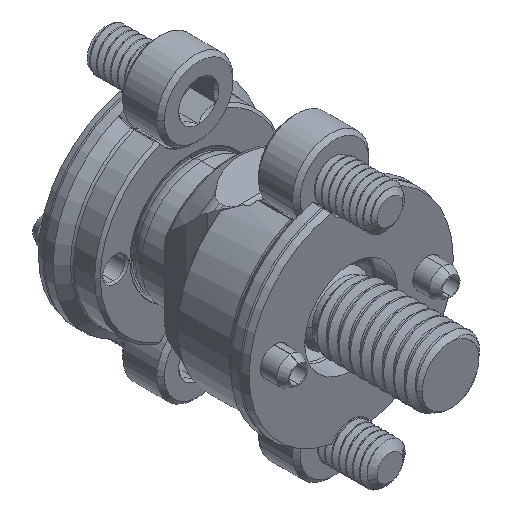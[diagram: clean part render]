
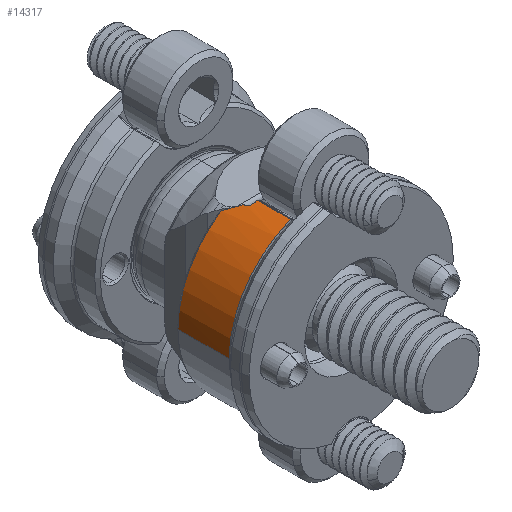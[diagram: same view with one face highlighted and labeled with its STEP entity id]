
A CAD part, isometric view. The second image highlights one B-rep face of the part: STEP entity #14317.
In plain terms, the highlighted cylindrical face has radius 7 mm (diameter 14 mm), a partial arc.
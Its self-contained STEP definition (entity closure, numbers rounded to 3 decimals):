
#232 = DIRECTION ( 'NONE',  ( 0., 1., 0. ) ) ;
#251 = EDGE_CURVE ( 'NONE', #13173, #10769, #2730, .T. ) ;
#262 = CARTESIAN_POINT ( 'NONE',  ( -2.583, 0., 6.506 ) ) ;
#434 = VERTEX_POINT ( 'NONE', #1760 ) ;
#596 = ORIENTED_EDGE ( 'NONE', *, *, #8091, .F. ) ;
#916 = CYLINDRICAL_SURFACE ( 'NONE', #11989, 7. ) ;
#1127 = ORIENTED_EDGE ( 'NONE', *, *, #251, .T. ) ;
#1154 = CARTESIAN_POINT ( 'NONE',  ( 0., 0., 0. ) ) ;
#1642 = VERTEX_POINT ( 'NONE', #15445 ) ;
#1760 = CARTESIAN_POINT ( 'NONE',  ( -3.1, -4.219, 6.276 ) ) ;
#1781 = CARTESIAN_POINT ( 'NONE',  ( -3.377, -3.872, 6.139 ) ) ;
#1853 = CARTESIAN_POINT ( 'NONE',  ( -2.719, -4.6, 6.45 ) ) ;
#2357 = VECTOR ( 'NONE', #14248, 1000. ) ;
#2442 = EDGE_CURVE ( 'NONE', #434, #14510, #9786, .T. ) ;
#2573 = CARTESIAN_POINT ( 'NONE',  ( -2.583, -6.996, 6.506 ) ) ;
#2730 = CIRCLE ( 'NONE', #6981, 7. ) ;
#3080 = ORIENTED_EDGE ( 'NONE', *, *, #3146, .F. ) ;
#3146 = EDGE_CURVE ( 'NONE', #8187, #10038, #10552, .T. ) ;
#3830 = VERTEX_POINT ( 'NONE', #10410 ) ;
#3967 = CARTESIAN_POINT ( 'NONE',  ( -7., -3.3, 0. ) ) ;
#4027 = EDGE_CURVE ( 'NONE', #5760, #1642, #11032, .T. ) ;
#4171 = ORIENTED_EDGE ( 'NONE', *, *, #2442, .F. ) ;
#4189 = CARTESIAN_POINT ( 'NONE',  ( -3.118, -4.158, 6.267 ) ) ;
#4567 = DIRECTION ( 'NONE',  ( 0., 1., 0. ) ) ;
#4812 = VECTOR ( 'NONE', #4567, 1000. ) ;
#4814 = DIRECTION ( 'NONE',  ( 0., 1., 0. ) ) ;
#4851 = EDGE_CURVE ( 'NONE', #10769, #3830, #7357, .T. ) ;
#5024 = DIRECTION ( 'NONE',  ( -1., 0., 0. ) ) ;
#5123 = B_SPLINE_CURVE_WITH_KNOTS ( 'NONE', 3,
 ( #11679, #7074, #9436, #5715 ),
 .UNSPECIFIED., .F., .F.,
 ( 4, 4 ),
 ( 0., 0. ),
 .UNSPECIFIED. ) ;
#5222 = CIRCLE ( 'NONE', #9244, 7. ) ;
#5240 = AXIS2_PLACEMENT_3D ( 'NONE', #13739, #11639, #7897 ) ;
#5472 = CIRCLE ( 'NONE', #5240, 7. ) ;
#5621 = EDGE_LOOP ( 'NONE', ( #3080, #7209, #9235, #15120, #8447, #4171, #596, #1127, #12379, #8100 ) ) ;
#5704 = DIRECTION ( 'NONE',  ( -1., 0., 0. ) ) ;
#5715 = CARTESIAN_POINT ( 'NONE',  ( -2.598, -4.6, 6.5 ) ) ;
#5760 = VERTEX_POINT ( 'NONE', #2573 ) ;
#5818 = VECTOR ( 'NONE', #4814, 1000. ) ;
#5849 = DIRECTION ( 'NONE',  ( 0., -1., 0. ) ) ;
#5863 = FACE_OUTER_BOUND ( 'NONE', #5621, .T. ) ;
#5872 = CARTESIAN_POINT ( 'NONE',  ( -3.1, -4.219, 6.276 ) ) ;
#6008 = EDGE_CURVE ( 'NONE', #8187, #5760, #5222, .T. ) ;
#6216 = CARTESIAN_POINT ( 'NONE',  ( 0., -4.6, 0. ) ) ;
#6580 = EDGE_CURVE ( 'NONE', #10038, #3830, #5472, .T. ) ;
#6981 = AXIS2_PLACEMENT_3D ( 'NONE', #11821, #5849, #8556 ) ;
#7074 = CARTESIAN_POINT ( 'NONE',  ( -2.588, -4.611, 6.504 ) ) ;
#7209 = ORIENTED_EDGE ( 'NONE', *, *, #6008, .T. ) ;
#7234 = CARTESIAN_POINT ( 'NONE',  ( -2.911, -4.562, 6.366 ) ) ;
#7357 = B_SPLINE_CURVE_WITH_KNOTS ( 'NONE', 3,
 ( #13909, #1781, #12758, #13764 ),
 .UNSPECIFIED., .F., .F.,
 ( 4, 4 ),
 ( 0., 0.001 ),
 .UNSPECIFIED. ) ;
#7897 = DIRECTION ( 'NONE',  ( -1., 0., 0. ) ) ;
#8091 = EDGE_CURVE ( 'NONE', #13173, #434, #9518, .T. ) ;
#8100 = ORIENTED_EDGE ( 'NONE', *, *, #6580, .F. ) ;
#8164 = CARTESIAN_POINT ( 'NONE',  ( -7., -6.996, 0. ) ) ;
#8187 = VERTEX_POINT ( 'NONE', #8164 ) ;
#8213 = EDGE_CURVE ( 'NONE', #1642, #13312, #5123, .T. ) ;
#8447 = ORIENTED_EDGE ( 'NONE', *, *, #14079, .F. ) ;
#8556 = DIRECTION ( 'NONE',  ( 0., 0., 1. ) ) ;
#9235 = ORIENTED_EDGE ( 'NONE', *, *, #4027, .T. ) ;
#9244 = AXIS2_PLACEMENT_3D ( 'NONE', #12311, #232, #5024 ) ;
#9436 = CARTESIAN_POINT ( 'NONE',  ( -2.593, -4.605, 6.502 ) ) ;
#9507 = CIRCLE ( 'NONE', #11729, 7. ) ;
#9518 = LINE ( 'NONE', #13159, #2357 ) ;
#9786 = B_SPLINE_CURVE_WITH_KNOTS ( 'NONE', 3,
 ( #5872, #14092, #10765, #7234, #11844, #10681 ),
 .UNSPECIFIED., .F., .F.,
 ( 4, 2, 4 ),
 ( 0., 0., 0.001 ),
 .UNSPECIFIED. ) ;
#10038 = VERTEX_POINT ( 'NONE', #3967 ) ;
#10322 = CARTESIAN_POINT ( 'NONE',  ( -3.1, -4.158, 6.276 ) ) ;
#10410 = CARTESIAN_POINT ( 'NONE',  ( -3.866, -3.3, 5.836 ) ) ;
#10552 = LINE ( 'NONE', #15274, #4812 ) ;
#10668 = DIRECTION ( 'NONE',  ( 0., 1., 0. ) ) ;
#10681 = CARTESIAN_POINT ( 'NONE',  ( -2.719, -4.6, 6.45 ) ) ;
#10765 = CARTESIAN_POINT ( 'NONE',  ( -3.054, -4.426, 6.299 ) ) ;
#10769 = VERTEX_POINT ( 'NONE', #4189 ) ;
#11012 = DIRECTION ( 'NONE',  ( 0., 0., -1. ) ) ;
#11032 = LINE ( 'NONE', #262, #5818 ) ;
#11639 = DIRECTION ( 'NONE',  ( 0., 1., 0. ) ) ;
#11679 = CARTESIAN_POINT ( 'NONE',  ( -2.583, -4.616, 6.506 ) ) ;
#11729 = AXIS2_PLACEMENT_3D ( 'NONE', #6216, #12387, #11012 ) ;
#11821 = CARTESIAN_POINT ( 'NONE',  ( 0., -4.158, 0. ) ) ;
#11844 = CARTESIAN_POINT ( 'NONE',  ( -2.816, -4.6, 6.409 ) ) ;
#11989 = AXIS2_PLACEMENT_3D ( 'NONE', #1154, #10668, #5704 ) ;
#12104 = CARTESIAN_POINT ( 'NONE',  ( -2.598, -4.6, 6.5 ) ) ;
#12311 = CARTESIAN_POINT ( 'NONE',  ( 0., -6.996, 0. ) ) ;
#12379 = ORIENTED_EDGE ( 'NONE', *, *, #4851, .T. ) ;
#12387 = DIRECTION ( 'NONE',  ( 0., 1., 0. ) ) ;
#12758 = CARTESIAN_POINT ( 'NONE',  ( -3.626, -3.587, 5.995 ) ) ;
#13159 = CARTESIAN_POINT ( 'NONE',  ( -3.1, 0., 6.276 ) ) ;
#13173 = VERTEX_POINT ( 'NONE', #10322 ) ;
#13312 = VERTEX_POINT ( 'NONE', #12104 ) ;
#13739 = CARTESIAN_POINT ( 'NONE',  ( 0., -3.3, 0. ) ) ;
#13764 = CARTESIAN_POINT ( 'NONE',  ( -3.866, -3.3, 5.836 ) ) ;
#13909 = CARTESIAN_POINT ( 'NONE',  ( -3.118, -4.158, 6.267 ) ) ;
#14079 = EDGE_CURVE ( 'NONE', #14510, #13312, #9507, .T. ) ;
#14092 = CARTESIAN_POINT ( 'NONE',  ( -3.1, -4.325, 6.276 ) ) ;
#14248 = DIRECTION ( 'NONE',  ( 0., -1., 0. ) ) ;
#14317 = ADVANCED_FACE ( 'NONE', ( #5863 ), #916, .T. ) ;
#14510 = VERTEX_POINT ( 'NONE', #1853 ) ;
#15120 = ORIENTED_EDGE ( 'NONE', *, *, #8213, .T. ) ;
#15274 = CARTESIAN_POINT ( 'NONE',  ( -7., 0., 0. ) ) ;
#15445 = CARTESIAN_POINT ( 'NONE',  ( -2.583, -4.616, 6.506 ) ) ;
